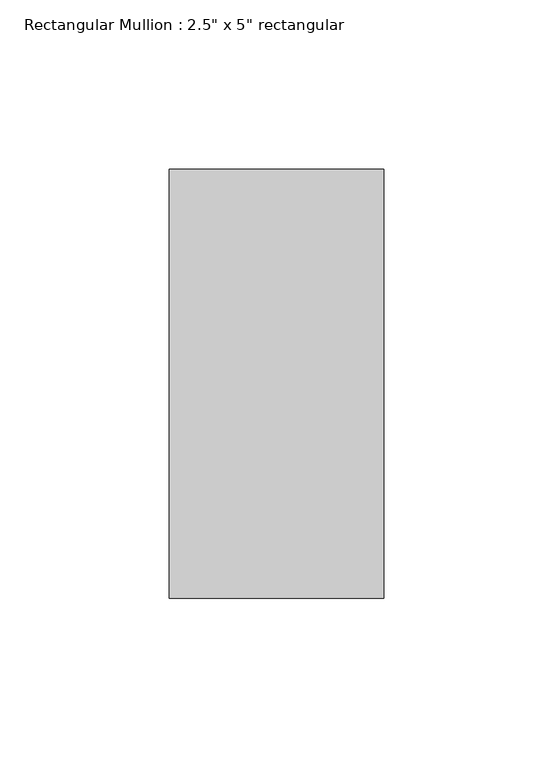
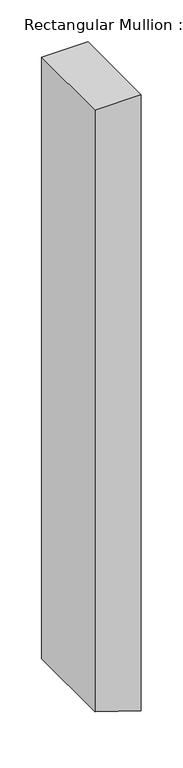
"""IFC4 building model written with IfcOpenShell, lengths in millimetres: member geometry."""

from ifc_helpers import new_model, si_unit, frame, origin, place, context, project, spatial, polyline, outline, extrude, source, transform, mapped, element, save


def member_2603a644(model_context):
    return source(origin(), model_context, "Body", "SweptSolid", [
        extrude(outline(polyline([(0.0, 0.0), (0.0, -63.5), (-875.760687, -63.5), (-896.9273537, 0.0), (0.0, 0.0)])), frame((0.0, -63.5, 0.0), z_axis=(0.0, 1.0, 0.0), x_axis=(0.0, 0.0, 1.0)), (0.0, 0.0, 1.0), 127.0),
    ])


if __name__ == "__main__":
    model = new_model("IFC4")
    model_context = context("Model", 3, world=origin())
    ifc_project = project(units=[si_unit("LENGTHUNIT", "METRE", prefix="MILLI")], contexts=[model_context])
    site = spatial("IfcSite", under=ifc_project)
    building = spatial("IfcBuilding", under=site)
    placement = place(None, origin())
    member_shape = member_2603a644(model_context)
    element("IfcMember", 1, ObjectType="Rectangular Mullion : 2.5\" x 5\" rectangular", at=placement, inside=building, context=model_context, shape_type="MappedRepresentation", body=[
        mapped(member_shape, transform((0.0, 0.0, 0.0), x_axis=(1.0, 0.0, 0.0), y_axis=(0.0, 1.0, 0.0), z_axis=(0.0, 0.0, 1.0))),
    ])
    save(model, "model.ifc")
